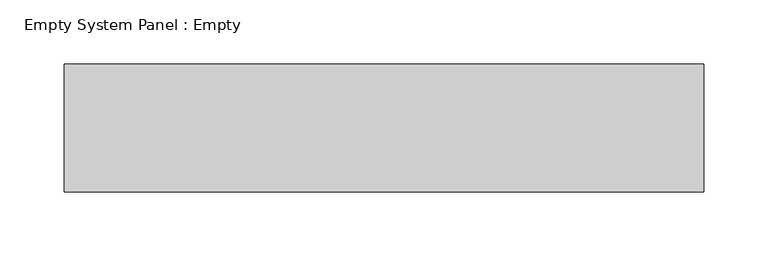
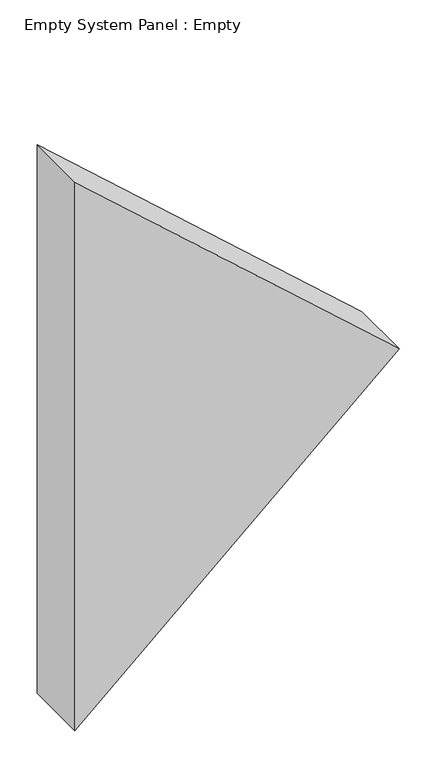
"""IFC4 building model written with IfcOpenShell, lengths in millimetres: plate geometry, Empty System Panel : Empty."""

from ifc_helpers import new_model, si_unit, frame, origin, place, context, project, spatial, polyline, outline, extrude, source, transform, mapped, element, save


def empty_system_panel_empty_fbcc0774(model_context):
    return source(origin(), model_context, "Body", "SweptSolid", [
        extrude(outline(polyline([(0.0, -249.7473039), (446.8059679, 249.7473039), (893.6119358, -249.7473039), (0.0, -249.7473039)])), frame((0.0, -50.0, 0.0), z_axis=(0.0, 1.0, 0.0), x_axis=(0.0, 0.0, 1.0)), (0.0, 0.0, 1.0), 100.0),
    ])


if __name__ == "__main__":
    model = new_model("IFC4")
    model_context = context("Model", 3, world=origin())
    ifc_project = project(units=[si_unit("LENGTHUNIT", "METRE", prefix="MILLI")], contexts=[model_context])
    site = spatial("IfcSite", under=ifc_project)
    building = spatial("IfcBuilding", under=site)
    placement = place(None, origin())
    empty_system_panel_empty_shape = empty_system_panel_empty_fbcc0774(model_context)
    element("IfcPlate", 1, ObjectType="Empty System Panel : Empty", at=placement, inside=building, context=model_context, shape_type="MappedRepresentation", body=[
        mapped(empty_system_panel_empty_shape, transform((0.0, 0.0, 0.0), x_axis=(1.0, 0.0, 0.0), y_axis=(0.0, 1.0, 0.0), z_axis=(0.0, 0.0, 1.0))),
    ])
    save(model, "model.ifc")
